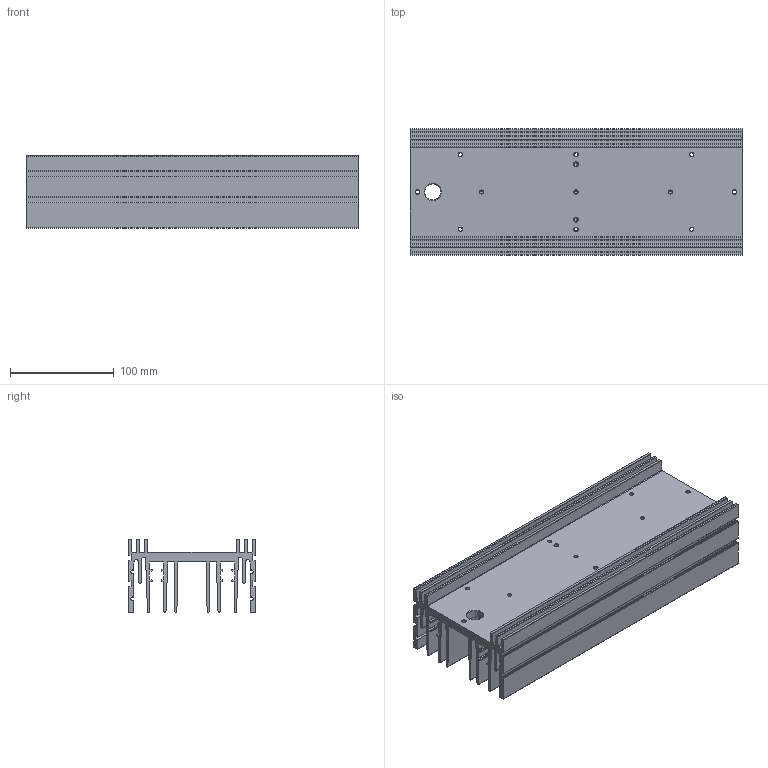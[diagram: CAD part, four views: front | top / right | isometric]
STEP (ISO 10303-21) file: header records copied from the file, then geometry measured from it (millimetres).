
FILE_DESCRIPTION(('Creo Elements/Direct Modeling STEP Export'),'2;1');
FILE_NAME('k9_976_569382_heatsink_1050mA.stp','2023-09-07T10:12:53',(''),(''),'Creo Elements/Direct Modeling STEP processor for AP214 (Solid Model)','Creo Elements/Direct Modeling 20.6 25-Mar-2023 (C) Parametric Technology GmbH','');
FILE_SCHEMA(('AUTOMOTIVE_DESIGN { 1 0 10303 214 1 1 1 1 }'));
Length unit declared in the file: millimetre
Products named in the file (2): K9_976_604911_heatsink_1050mA
Assembly tree (1 placements, depth 2):
  K9_976_604911_heatsink_1050mA
    K9_976_604911_heatsink_1050mA
Bounding box: 320 x 122 x 70 mm (x, y, z)
Volume: 843123 mm3; surface area: 438322.1 mm2
Topology: 1 solids, 1 shells, 302 faces, 898 edges, 593 vertices
Faces by surface type: cylinder 140, plane 122, cone 40
Entity records: 9794 total; most frequent: ORIENTED_EDGE 1776, CARTESIAN_POINT 1690, DIRECTION 1658, EDGE_CURVE 888, VERTEX_POINT 593, AXIS2_PLACEMENT_3D 561, VECTOR 536, LINE 536
